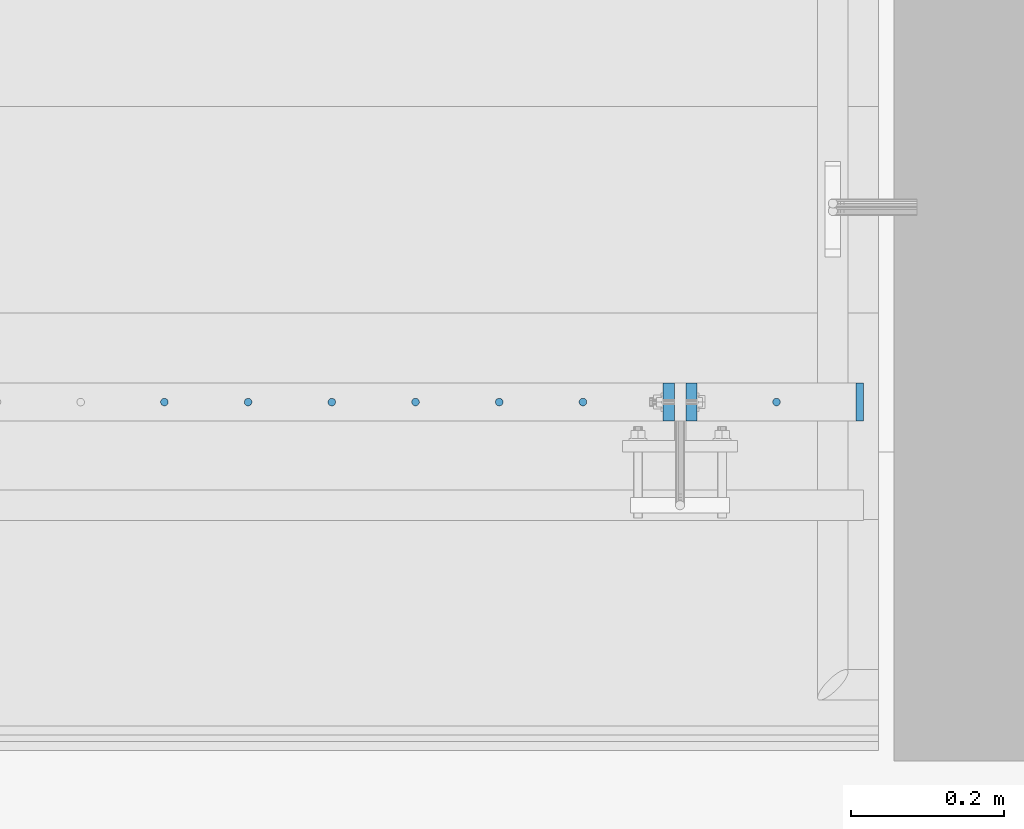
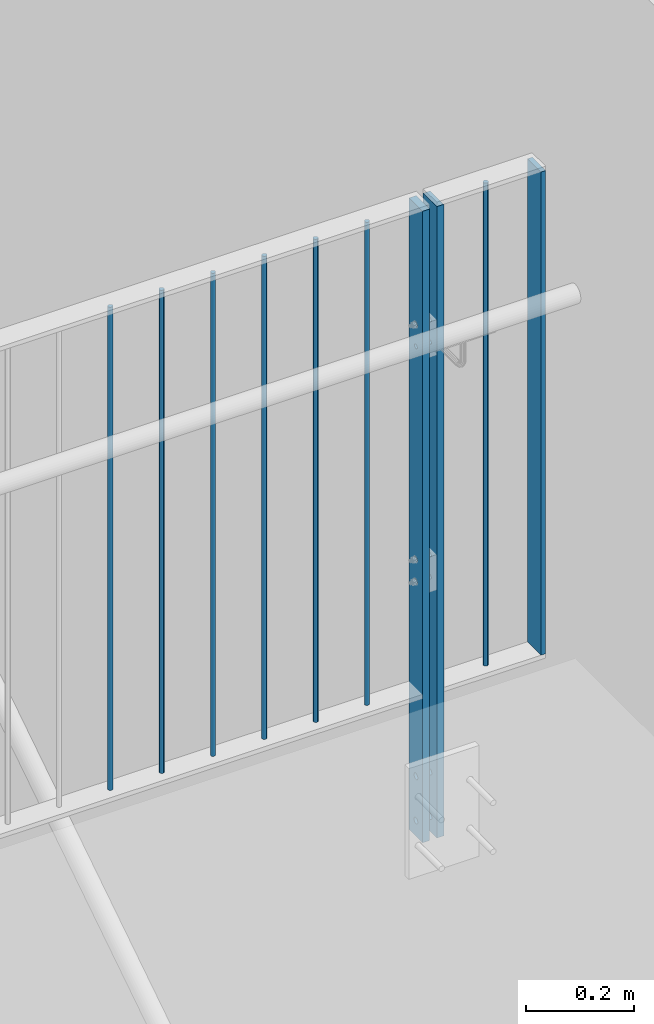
# One storey, part 10 of 296: 10 columns, 12 openings.
"""IFC2X3 building model written with IfcOpenShell, lengths in millimetres."""

from ifc_helpers import new_model, entity, si_unit, converted_unit, frame, frame_2d, origin, origin_with_axes, origin_2d, place, context, project, spatial, rectangle, circle, extrude, material, element, save


model = new_model("IFC2X3")

# Units and contexts
model_context = context("Model", 3, precision=1e-09, world=origin_with_axes())
ifc_project = project(units=[si_unit("LENGTHUNIT", "METRE", prefix="MILLI"), si_unit("AREAUNIT", "SQUARE_METRE"), si_unit("VOLUMEUNIT", "CUBIC_METRE"), converted_unit("PLANEANGLEUNIT", "DEGREE", entity("IfcPlaneAngleMeasure", 0.01745329), si_unit("PLANEANGLEUNIT", "RADIAN"), dimensions=[0, 0, 0, 0, 0, 0, 0])], contexts=[model_context])

# Site, building, storey
site_placement = place(None, origin_with_axes())
site = spatial("IfcSite", under=ifc_project, at=site_placement, Name="TZD-S?d | Treppenhausgel?nder", CompositionType="ELEMENT")
building_placement = place(site_placement, origin_with_axes())
building = spatial("IfcBuilding", under=site, at=building_placement, Name="Struktur 1", CompositionType="ELEMENT")
storey_placement = place(building_placement, origin_with_axes())
storey = spatial("IfcBuildingStorey", under=building, at=storey_placement, Name="Default Storey", CompositionType="ELEMENT", Elevation=0.0)

# Columns
ifc_material = material(Name="S235JR")
column_1_placement = place(None, frame((1646.251414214, -3710.001, 13650.0), z_axis=(0.0, 0.0, -1.0), x_axis=(-1.0, 0.0, 0.0)))
element("IfcColumn", 1, at=column_1_placement, inside=storey, material=ifc_material, Name="-", ObjectType="-", context=model_context, shape_type="SweptSolid", body=[
    extrude(circle(Radius=5.0, at=origin_2d()), origin(), (0.0, 0.0, -1.0), 1090.0),
])
column_2_placement = place(None, frame((1755.001414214, -3710.001, 13650.0), z_axis=(0.0, 0.0, -1.0), x_axis=(-1.0, 0.0, 0.0)))
element("IfcColumn", 2, at=column_2_placement, inside=storey, material=ifc_material, Name="-", ObjectType="-", context=model_context, shape_type="SweptSolid", body=[
    extrude(rectangle(XDim=10.0, YDim=50.0, at=origin_2d()), origin(), (0.0, 0.0, -1.0), 1090.0),
])

# Column, openings
column_3_placement = place(None, frame((1505.001414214, -3710.001, 13315.001), z_axis=(0.0, 0.0, 1.0), x_axis=(1.0, 0.0, 0.0)))
column_3 = element("IfcColumn", 3, at=column_3_placement, inside=storey, material=ifc_material, Name="-", ObjectType="-", context=model_context, shape_type="SweptSolid", body=[
    extrude(rectangle(XDim=15.0, YDim=50.0, at=origin_2d()), origin(), (0.0, 0.0, 1.0), 1424.999),
])
opening_1_placement = place(column_3_placement, frame((-8.0, 5.001, 624.999999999), z_axis=(-1.0, 0.0, 0.0), x_axis=(0.0, -1.0, 0.0)))
element("IfcOpeningElement", 4, at=opening_1_placement, cuts=column_3, ObjectType="Opening", context=model_context, shape_type="SweptSolid", body=[
    extrude(circle(Radius=5.001, at=frame_2d((5.001, 0.0), x_axis=(1.0, 0.0))), origin(), (0.0, 0.0, -1.0), 16.0),
])
opening_2_placement = place(column_3_placement, frame((-8.0, 5.001, 574.999999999), z_axis=(-1.0, 0.0, 0.0), x_axis=(0.0, -1.0, 0.0)))
element("IfcOpeningElement", 5, at=opening_2_placement, cuts=column_3, ObjectType="Opening", context=model_context, shape_type="SweptSolid", body=[
    extrude(circle(Radius=5.001, at=frame_2d((5.001, 0.0), x_axis=(1.0, 0.0))), origin(), (0.0, 0.0, -1.0), 16.0),
])
opening_3_placement = place(column_3_placement, frame((-8.0, 5.001, 1154.999999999), z_axis=(-1.0, 0.0, 0.0), x_axis=(0.0, -1.0, 0.0)))
element("IfcOpeningElement", 6, at=opening_3_placement, cuts=column_3, ObjectType="Opening", context=model_context, shape_type="SweptSolid", body=[
    extrude(circle(Radius=5.001, at=frame_2d((5.001, 0.0), x_axis=(1.0, 0.0))), origin(), (0.0, 0.0, -1.0), 16.0),
])
opening_4_placement = place(column_3_placement, frame((-8.0, 5.001, 1104.999999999), z_axis=(-1.0, 0.0, 0.0), x_axis=(0.0, -1.0, 0.0)))
element("IfcOpeningElement", 7, at=opening_4_placement, cuts=column_3, ObjectType="Opening", context=model_context, shape_type="SweptSolid", body=[
    extrude(circle(Radius=5.001, at=frame_2d((5.001, 0.0), x_axis=(1.0, 0.0))), origin(), (0.0, 0.0, -1.0), 16.0),
])
opening_5_placement = place(column_3_placement, frame((-8.0, 7.001, 135.0), z_axis=(-1.0, 0.0, 0.0), x_axis=(0.0, -1.0, 0.0)))
element("IfcOpeningElement", 8, at=opening_5_placement, cuts=column_3, ObjectType="Opening", context=model_context, shape_type="SweptSolid", body=[
    extrude(circle(Radius=7.001, at=frame_2d((7.001, 0.0), x_axis=(1.0, 0.0))), origin(), (0.0, 0.0, -1.0), 16.0),
])
opening_6_placement = place(column_3_placement, frame((-8.0, 7.001, 35.0), z_axis=(-1.0, 0.0, 0.0), x_axis=(0.0, -1.0, 0.0)))
element("IfcOpeningElement", 9, at=opening_6_placement, cuts=column_3, ObjectType="Opening", context=model_context, shape_type="SweptSolid", body=[
    extrude(circle(Radius=7.001, at=frame_2d((7.001, 0.0), x_axis=(1.0, 0.0))), origin(), (0.0, 0.0, -1.0), 16.0),
])

column_4_placement = place(None, frame((1535.001414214, -3710.001, 13315.001), z_axis=(0.0, 0.0, -1.0), x_axis=(-1.0, 0.0, 0.0)))
column_4 = element("IfcColumn", 10, at=column_4_placement, inside=storey, material=ifc_material, Name="-", ObjectType="-", context=model_context, shape_type="SweptSolid", body=[
    extrude(rectangle(XDim=15.0, YDim=50.0, at=origin_2d()), origin(), (0.0, 0.0, -1.0), 1424.999),
])
opening_7_placement = place(column_4_placement, frame((8.0, 5.001, -624.999999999), z_axis=(1.0, 0.0, 0.0), x_axis=(0.0, 1.0, 0.0)))
element("IfcOpeningElement", 11, at=opening_7_placement, cuts=column_4, ObjectType="Opening", context=model_context, shape_type="SweptSolid", body=[
    extrude(circle(Radius=5.001, at=frame_2d((-5.001, 0.0), x_axis=(1.0, 0.0))), origin(), (0.0, 0.0, -1.0), 16.0),
])
opening_8_placement = place(column_4_placement, frame((8.0, 5.001, -574.999999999), z_axis=(1.0, 0.0, 0.0), x_axis=(0.0, 1.0, 0.0)))
element("IfcOpeningElement", 12, at=opening_8_placement, cuts=column_4, ObjectType="Opening", context=model_context, shape_type="SweptSolid", body=[
    extrude(circle(Radius=5.001, at=frame_2d((-5.001, 0.0), x_axis=(1.0, 0.0))), origin(), (0.0, 0.0, -1.0), 16.0),
])
opening_9_placement = place(column_4_placement, frame((8.0, 5.001, -1154.999999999), z_axis=(1.0, 0.0, 0.0), x_axis=(0.0, 1.0, 0.0)))
element("IfcOpeningElement", 13, at=opening_9_placement, cuts=column_4, ObjectType="Opening", context=model_context, shape_type="SweptSolid", body=[
    extrude(circle(Radius=5.001, at=frame_2d((-5.001, 0.0), x_axis=(1.0, 0.0))), origin(), (0.0, 0.0, -1.0), 16.0),
])
opening_10_placement = place(column_4_placement, frame((8.0, 5.001, -1104.999999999), z_axis=(1.0, 0.0, 0.0), x_axis=(0.0, 1.0, 0.0)))
element("IfcOpeningElement", 14, at=opening_10_placement, cuts=column_4, ObjectType="Opening", context=model_context, shape_type="SweptSolid", body=[
    extrude(circle(Radius=5.001, at=frame_2d((-5.001, 0.0), x_axis=(1.0, 0.0))), origin(), (0.0, 0.0, -1.0), 16.0),
])
opening_11_placement = place(column_4_placement, frame((8.0, 7.001, -135.0), z_axis=(1.0, 0.0, 0.0), x_axis=(0.0, 1.0, 0.0)))
element("IfcOpeningElement", 15, at=opening_11_placement, cuts=column_4, ObjectType="Opening", context=model_context, shape_type="SweptSolid", body=[
    extrude(circle(Radius=7.001, at=frame_2d((-7.001, 0.0), x_axis=(1.0, 0.0))), origin(), (0.0, 0.0, -1.0), 16.0),
])
opening_12_placement = place(column_4_placement, frame((8.0, 7.001, -35.0), z_axis=(1.0, 0.0, 0.0), x_axis=(0.0, 1.0, 0.0)))
element("IfcOpeningElement", 16, at=opening_12_placement, cuts=column_4, ObjectType="Opening", context=model_context, shape_type="SweptSolid", body=[
    extrude(circle(Radius=7.001, at=frame_2d((-7.001, 0.0), x_axis=(1.0, 0.0))), origin(), (0.0, 0.0, -1.0), 16.0),
])

# Columns
for number, where, z_axis, x_axis in (
    (17, (1392.955959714, -3710.001, 13650.0), (0.0, 0.0, -1.0), (-1.0, 0.0, 0.0)),
    (18, (1283.410505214, -3710.001, 13650.0), (0.0, 0.0, -1.0), (-1.0, 0.0, 0.0)),
    (19, (1173.865050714, -3710.001, 13650.0), (0.0, 0.0, -1.0), (-1.0, 0.0, 0.0)),
    (20, (1064.319596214, -3710.001, 13650.0), (0.0, 0.0, -1.0), (-1.0, 0.0, 0.0)),
    (21, (954.774141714, -3710.001, 13650.0), (0.0, 0.0, -1.0), (-1.0, 0.0, 0.0)),
    (22, (845.228687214, -3710.001, 13650.0), (0.0, 0.0, -1.0), (-1.0, 0.0, 0.0)),
):
    element("IfcColumn", number, at=place(None, frame(where, z_axis=z_axis, x_axis=x_axis)), inside=storey, material=ifc_material, Name="-", ObjectType="-", context=model_context, shape_type="SweptSolid", body=[
        extrude(circle(Radius=5.0, at=origin_2d()), origin(), (0.0, 0.0, -1.0), 1090.0),
    ])

save(model, "model.ifc")
